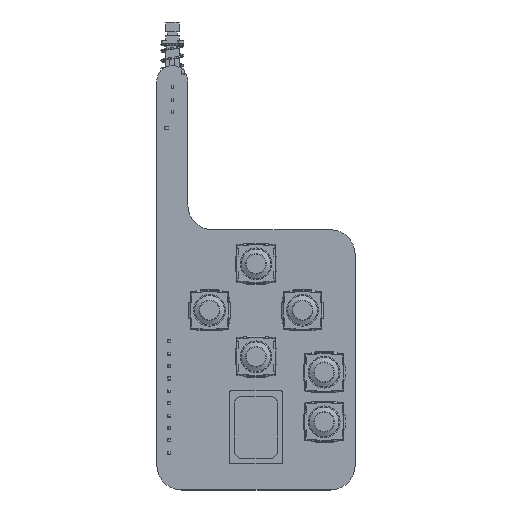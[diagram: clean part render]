
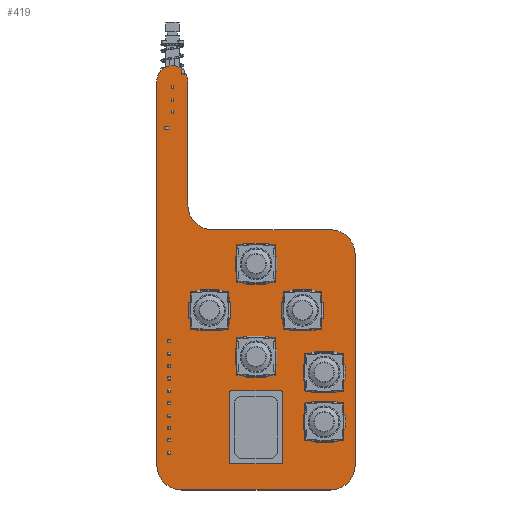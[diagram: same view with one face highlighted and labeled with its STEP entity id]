
A CAD part, top view. The second image highlights one B-rep face of the part: STEP entity #419.
In plain terms, the highlighted planar face has unit normal (0, 0, 1).
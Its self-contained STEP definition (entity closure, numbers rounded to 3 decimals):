
#88 = VERTEX_POINT('',#89);
#89 = CARTESIAN_POINT('',(30.48,25.4,0.411));
#95 = EDGE_CURVE('',#88,#96,#98,.T.);
#96 = VERTEX_POINT('',#97);
#97 = CARTESIAN_POINT('',(25.4,30.48,0.411));
#98 = CIRCLE('',#99,5.08);
#99 = AXIS2_PLACEMENT_3D('',#100,#101,#102);
#100 = CARTESIAN_POINT('',(30.48,30.48,0.411));
#101 = DIRECTION('',(0.,0.,-1.));
#102 = DIRECTION('',(0.,-1.,0.));
#128 = EDGE_CURVE('',#96,#129,#131,.T.);
#129 = VERTEX_POINT('',#130);
#130 = CARTESIAN_POINT('',(25.4,109.22,0.411));
#131 = LINE('',#132,#133);
#132 = CARTESIAN_POINT('',(25.4,30.48,0.411));
#133 = VECTOR('',#134,1.);
#134 = DIRECTION('',(0.,1.,0.));
#159 = EDGE_CURVE('',#129,#160,#162,.T.);
#160 = VERTEX_POINT('',#161);
#161 = CARTESIAN_POINT('',(31.75,109.22,0.411));
#162 = CIRCLE('',#163,3.175);
#163 = AXIS2_PLACEMENT_3D('',#164,#165,#166);
#164 = CARTESIAN_POINT('',(28.575,109.22,0.411));
#165 = DIRECTION('',(0.,0.,-1.));
#166 = DIRECTION('',(-1.,0.,0.));
#192 = EDGE_CURVE('',#160,#193,#195,.T.);
#193 = VERTEX_POINT('',#194);
#194 = CARTESIAN_POINT('',(31.75,83.82,0.411));
#195 = LINE('',#196,#197);
#196 = CARTESIAN_POINT('',(31.75,109.22,0.411));
#197 = VECTOR('',#198,1.);
#198 = DIRECTION('',(0.,-1.,0.));
#223 = EDGE_CURVE('',#193,#224,#226,.T.);
#224 = VERTEX_POINT('',#225);
#225 = CARTESIAN_POINT('',(36.83,78.74,0.411));
#226 = CIRCLE('',#227,5.08);
#227 = AXIS2_PLACEMENT_3D('',#228,#229,#230);
#228 = CARTESIAN_POINT('',(36.83,83.82,0.411));
#229 = DIRECTION('',(0.,0.,1.));
#230 = DIRECTION('',(-1.,0.,0.));
#256 = EDGE_CURVE('',#224,#257,#259,.T.);
#257 = VERTEX_POINT('',#258);
#258 = CARTESIAN_POINT('',(60.96,78.74,0.411));
#259 = LINE('',#260,#261);
#260 = CARTESIAN_POINT('',(36.83,78.74,0.411));
#261 = VECTOR('',#262,1.);
#262 = DIRECTION('',(1.,0.,0.));
#287 = EDGE_CURVE('',#257,#288,#290,.T.);
#288 = VERTEX_POINT('',#289);
#289 = CARTESIAN_POINT('',(66.04,73.66,0.411));
#290 = CIRCLE('',#291,5.08);
#291 = AXIS2_PLACEMENT_3D('',#292,#293,#294);
#292 = CARTESIAN_POINT('',(60.96,73.66,0.411));
#293 = DIRECTION('',(0.,0.,-1.));
#294 = DIRECTION('',(0.,1.,0.));
#320 = EDGE_CURVE('',#288,#321,#323,.T.);
#321 = VERTEX_POINT('',#322);
#322 = CARTESIAN_POINT('',(66.04,30.48,0.411));
#323 = LINE('',#324,#325);
#324 = CARTESIAN_POINT('',(66.04,73.66,0.411));
#325 = VECTOR('',#326,1.);
#326 = DIRECTION('',(0.,-1.,0.));
#351 = EDGE_CURVE('',#321,#352,#354,.T.);
#352 = VERTEX_POINT('',#353);
#353 = CARTESIAN_POINT('',(60.96,25.4,0.411));
#354 = CIRCLE('',#355,5.08);
#355 = AXIS2_PLACEMENT_3D('',#356,#357,#358);
#356 = CARTESIAN_POINT('',(60.96,30.48,0.411));
#357 = DIRECTION('',(0.,0.,-1.));
#358 = DIRECTION('',(1.,0.,0.));
#384 = EDGE_CURVE('',#352,#88,#385,.T.);
#385 = LINE('',#386,#387);
#386 = CARTESIAN_POINT('',(60.96,25.4,0.411));
#387 = VECTOR('',#388,1.);
#388 = DIRECTION('',(-1.,0.,0.));
#419 = ADVANCED_FACE('',(#420),#432,.T.);
#420 = FACE_BOUND('',#421,.F.);
#421 = EDGE_LOOP('',(#422,#423,#424,#425,#426,#427,#428,#429,#430,#431)
  );
#422 = ORIENTED_EDGE('',*,*,#95,.T.);
#423 = ORIENTED_EDGE('',*,*,#128,.T.);
#424 = ORIENTED_EDGE('',*,*,#159,.T.);
#425 = ORIENTED_EDGE('',*,*,#192,.T.);
#426 = ORIENTED_EDGE('',*,*,#223,.T.);
#427 = ORIENTED_EDGE('',*,*,#256,.T.);
#428 = ORIENTED_EDGE('',*,*,#287,.T.);
#429 = ORIENTED_EDGE('',*,*,#320,.T.);
#430 = ORIENTED_EDGE('',*,*,#351,.T.);
#431 = ORIENTED_EDGE('',*,*,#384,.T.);
#432 = PLANE('',#433);
#433 = AXIS2_PLACEMENT_3D('',#434,#435,#436);
#434 = CARTESIAN_POINT('',(30.48,25.4,0.411));
#435 = DIRECTION('',(0.,0.,1.));
#436 = DIRECTION('',(1.,0.,0.));
